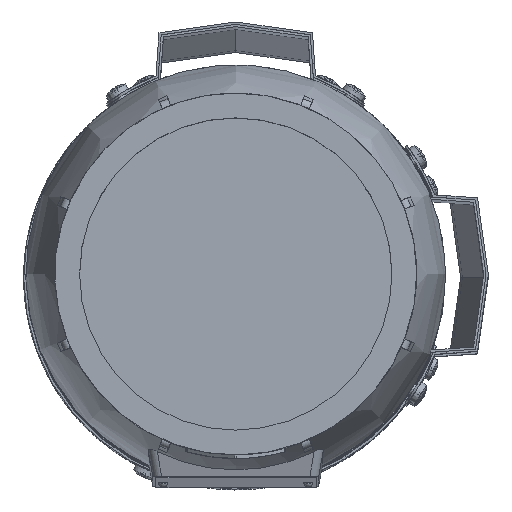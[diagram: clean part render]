
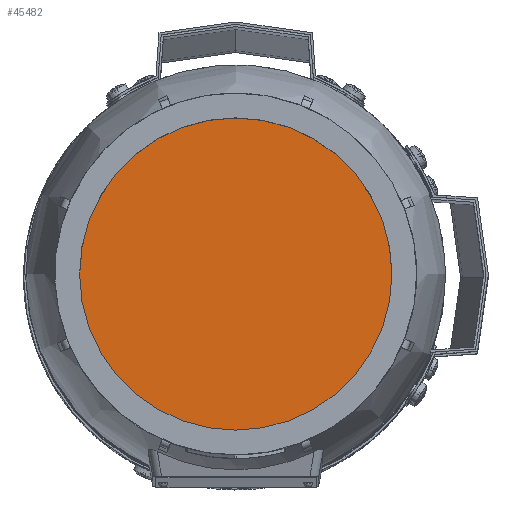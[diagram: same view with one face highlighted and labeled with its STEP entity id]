
A CAD part, top view. The second image highlights one B-rep face of the part: STEP entity #45482.
In plain terms, the highlighted planar face has unit normal (0, 0, 1) as drawn and (0, 1, 0) by its records, which use the part's own axes.
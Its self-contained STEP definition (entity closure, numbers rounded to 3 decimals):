
#9561=ORIENTED_EDGE('',*,*,#23299,.F.);
#23299=EDGE_CURVE('',#30168,#30168,#34795,.T.);
#30168=VERTEX_POINT('',#65645);
#34795=CIRCLE('',#47970,67.736);
#36871=EDGE_LOOP('',(#9561));
#40179=FACE_BOUND('',#36871,.T.);
#43505=PLANE('',#47969);
#45482=ADVANCED_FACE('',(#40179),#43505,.F.);
#47969=AXIS2_PLACEMENT_3D('',#65643,#52466,#52467);
#47970=AXIS2_PLACEMENT_3D('',#65644,#52468,#52469);
#52466=DIRECTION('',(0.,-1.,0.));
#52467=DIRECTION('',(0.,0.,-1.));
#52468=DIRECTION('',(0.,-1.,0.));
#52469=DIRECTION('',(0.,0.,-1.));
#65643=CARTESIAN_POINT('',(0.,154.,0.));
#65644=CARTESIAN_POINT('',(0.,154.,0.));
#65645=CARTESIAN_POINT('',(0.,154.,-67.736));
